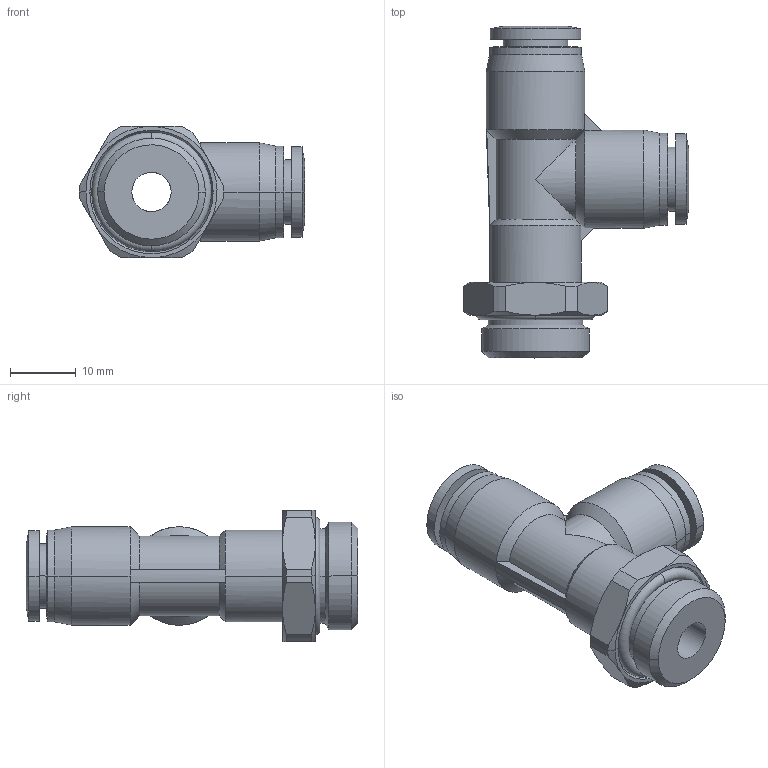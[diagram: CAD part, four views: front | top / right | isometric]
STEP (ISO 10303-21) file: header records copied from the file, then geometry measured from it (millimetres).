
FILE_DESCRIPTION (( 'STEP AP203' ), '1' );
FILE_NAME ('FLT08-03.STEP', '2020-05-12T14:16:52', ( '' ), ( '' ), 'SwSTEP 2.0', 'SolidWorks 2019', '' );
FILE_SCHEMA (( 'CONFIG_CONTROL_DESIGN' ));
Length unit declared in the file: millimetre
Products named in the file (1): FLT08-03
Bounding box: 34.35 x 50.6 x 20 mm (x, y, z)
Surface area: 6128.4 mm2 (no closed solid volume)
Topology: 0 solids, 4 shells, 118 faces, 286 edges, 179 vertices
Faces by surface type: cylinder 44, cone 38, plane 27, bspline 5, torus 4
Entity records: 5805 total; most frequent: CARTESIAN_POINT 3468, ORIENTED_EDGE 556, DIRECTION 291, EDGE_CURVE 286, B_SPLINE_CURVE_WITH_KNOTS 215, VERTEX_POINT 179, EDGE_LOOP 131, ADVANCED_FACE 118
